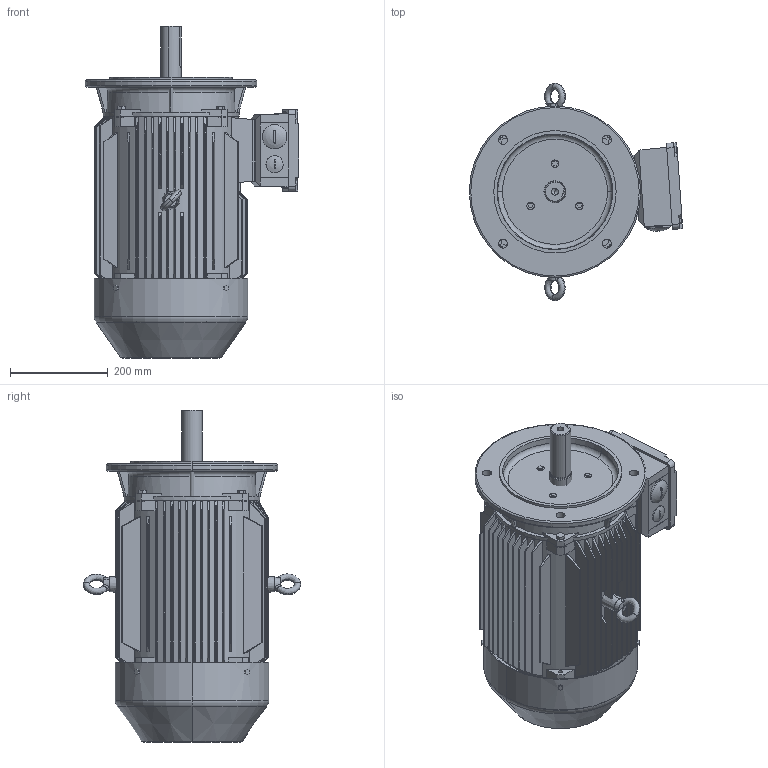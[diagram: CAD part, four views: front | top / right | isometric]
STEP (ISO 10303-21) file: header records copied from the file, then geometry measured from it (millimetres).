
FILE_DESCRIPTION (( 'STEP AP203' ), '1' );
FILE_NAME ('TE3-160L V1.STEP', '2019-12-18T02:48:04', ( '微软用户' ), ( '微软中国' ), 'SwSTEP 2.0', 'SolidWorks 2012', '' );
FILE_SCHEMA (( 'CONFIG_CONTROL_DESIGN' ));
Products named in the file (11): TE3-160L V1; eyebolts gb_GB_FASTENER_SCREWS_FRS M12-N; hexagon head bolts--product grade c gb_GB_FASTENER_BOLT_HHBC M8X40-N; 5EJ.354.484GX160~180P24諉盄碟; hexagon head bolts-full thread gb_GB_FASTENER_BOLT_STBAB A M6X12-N; 8EJ.353.10053GX160~180P24諉盄碟裔; 8EJ.354.593Y2-160~180P24諉盄碟釱; TE3-160 粣扥; YX3-160瑞欶; TE3-160 B35,B5芧埽傷裔; YX3-160L儂釱 B5
Assembly tree (14 placements, depth 3):
  TE3-160L V1
    YX3-160L儂釱 B5
    TE3-160 B35,B5芧埽傷裔
    YX3-160瑞欶
    TE3-160 粣扥
    5EJ.354.484GX160~180P24諉盄碟
      8EJ.354.593Y2-160~180P24諉盄碟釱
      8EJ.353.10053GX160~180P24諉盄碟裔
      hexagon head bolts-full thread gb_GB_FASTENER_BOLT_STBAB A M6X12-N  x4
    hexagon head bolts--product grade c gb_GB_FASTENER_BOLT_HHBC M8X40-N
    eyebolts gb_GB_FASTENER_SCREWS_FRS M12-N  x2
Bounding box: 435.87 x 444.2 x 678 mm (x, y, z)
Volume: 28987702.8 mm3; surface area: 2015894.4 mm2
Topology: 13 solids, 16 shells, 1730 faces, 4313 edges, 2854 vertices
Faces by surface type: plane 1228, cylinder 233, cone 121, bspline 110, torus 36, sphere 2
Entity records: 118324 total; most frequent: CARTESIAN_POINT 79474, ORIENTED_EDGE 8062, DIRECTION 6916, EDGE_CURVE 4031, LINE 2820, VECTOR 2820, VERTEX_POINT 2683, AXIS2_PLACEMENT_3D 2048
